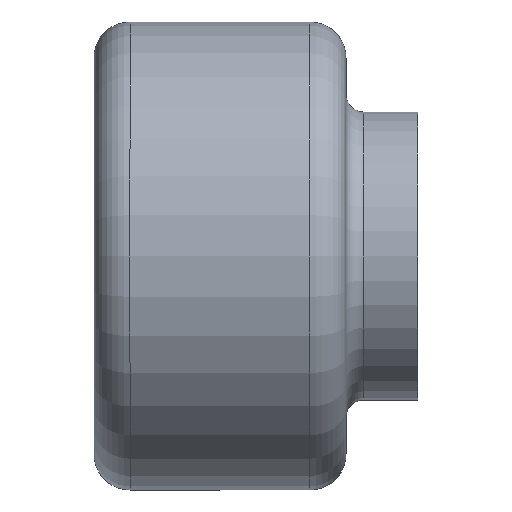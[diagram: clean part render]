
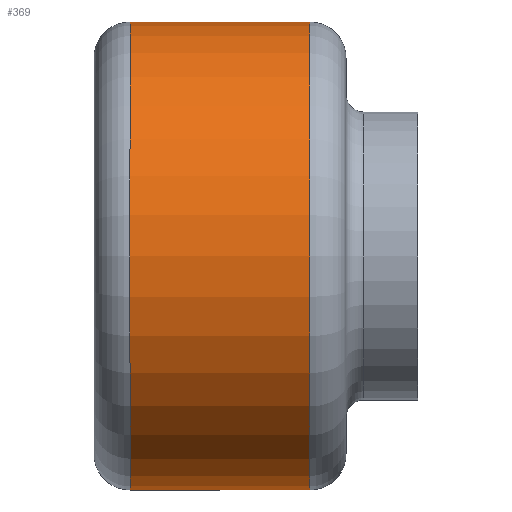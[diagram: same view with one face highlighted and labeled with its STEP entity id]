
A CAD part, left-side view. The second image highlights one B-rep face of the part: STEP entity #369.
In plain terms, the highlighted cylindrical face has radius 20.637 mm (diameter 41.275 mm), a partial arc.
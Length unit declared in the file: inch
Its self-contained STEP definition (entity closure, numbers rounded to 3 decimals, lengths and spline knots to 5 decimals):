
#33 = LINE ( 'NONE', #422, #133 ) ;
#34 = AXIS2_PLACEMENT_3D ( 'NONE', #506, #156, #90 ) ;
#35 = EDGE_CURVE ( 'NONE', #587, #459, #565, .T. ) ;
#46 = AXIS2_PLACEMENT_3D ( 'NONE', #118, #475, #472 ) ;
#50 = AXIS2_PLACEMENT_3D ( 'NONE', #558, #404, #556 ) ;
#55 = ORIENTED_EDGE ( 'NONE', *, *, #35, .T. ) ;
#90 = DIRECTION ( 'NONE',  ( 0., 0., -1. ) ) ;
#93 = EDGE_LOOP ( 'NONE', ( #370, #55, #448, #403 ) ) ;
#118 = CARTESIAN_POINT ( 'NONE',  ( 0., 0.375, 0. ) ) ;
#121 = LINE ( 'NONE', #516, #425 ) ;
#133 = VECTOR ( 'NONE', #274, 39.37008 ) ;
#156 = DIRECTION ( 'NONE',  ( 0., -1., 0. ) ) ;
#162 = EDGE_CURVE ( 'NONE', #587, #312, #121, .T. ) ;
#188 = CIRCLE ( 'NONE', #46, 0.8125 ) ;
#202 = CARTESIAN_POINT ( 'NONE',  ( 0., 0.375, 0.8125 ) ) ;
#205 = FACE_OUTER_BOUND ( 'NONE', #93, .T. ) ;
#228 = CARTESIAN_POINT ( 'NONE',  ( 0., 1., 0.8125 ) ) ;
#274 = DIRECTION ( 'NONE',  ( 0., -1., 0. ) ) ;
#312 = VERTEX_POINT ( 'NONE', #202 ) ;
#324 = DIRECTION ( 'NONE',  ( 0., -1., 0. ) ) ;
#344 = VERTEX_POINT ( 'NONE', #355 ) ;
#355 = CARTESIAN_POINT ( 'NONE',  ( 0., 0.375, -0.8125 ) ) ;
#369 = ADVANCED_FACE ( 'NONE', ( #205 ), #512, .T. ) ;
#370 = ORIENTED_EDGE ( 'NONE', *, *, #162, .F. ) ;
#403 = ORIENTED_EDGE ( 'NONE', *, *, #432, .F. ) ;
#404 = DIRECTION ( 'NONE',  ( 0., -1., 0. ) ) ;
#422 = CARTESIAN_POINT ( 'NONE',  ( 0., 0., -0.8125 ) ) ;
#425 = VECTOR ( 'NONE', #324, 39.37008 ) ;
#432 = EDGE_CURVE ( 'NONE', #312, #344, #188, .T. ) ;
#448 = ORIENTED_EDGE ( 'NONE', *, *, #538, .T. ) ;
#459 = VERTEX_POINT ( 'NONE', #467 ) ;
#467 = CARTESIAN_POINT ( 'NONE',  ( 0., 1., -0.8125 ) ) ;
#472 = DIRECTION ( 'NONE',  ( 0., 0., -1. ) ) ;
#475 = DIRECTION ( 'NONE',  ( 0., -1., 0. ) ) ;
#506 = CARTESIAN_POINT ( 'NONE',  ( 0., 1., 0. ) ) ;
#512 = CYLINDRICAL_SURFACE ( 'NONE', #50, 0.8125 ) ;
#516 = CARTESIAN_POINT ( 'NONE',  ( 0., 0., 0.8125 ) ) ;
#538 = EDGE_CURVE ( 'NONE', #459, #344, #33, .T. ) ;
#556 = DIRECTION ( 'NONE',  ( 0., 0., -1. ) ) ;
#558 = CARTESIAN_POINT ( 'NONE',  ( 0., 0., 0. ) ) ;
#565 = CIRCLE ( 'NONE', #34, 0.8125 ) ;
#587 = VERTEX_POINT ( 'NONE', #228 ) ;
